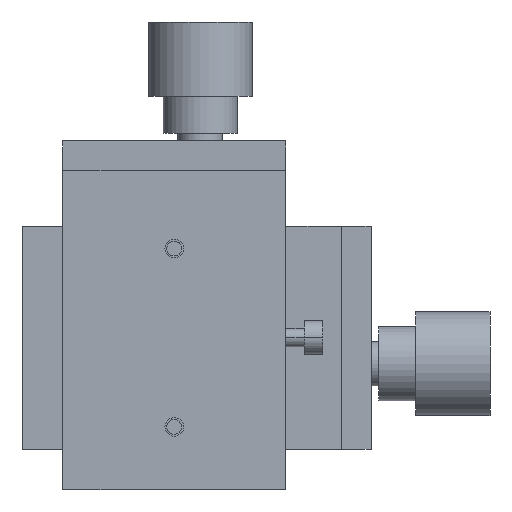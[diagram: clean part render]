
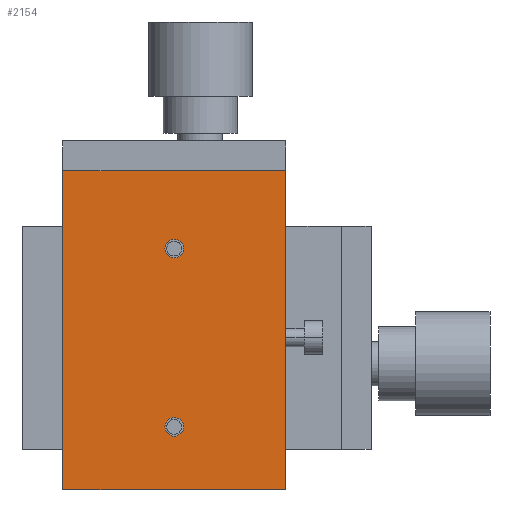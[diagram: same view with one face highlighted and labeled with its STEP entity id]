
A CAD part, front view. The second image highlights one B-rep face of the part: STEP entity #2154.
In plain terms, the highlighted planar face has unit normal (0, -1, 0).
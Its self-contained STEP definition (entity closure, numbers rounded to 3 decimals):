
#1580 = EDGE_CURVE ( 'NONE', #1581, #1582, #5547, .T. ) ;
#1581 = VERTEX_POINT ( 'NONE', #5542 ) ;
#1582 = VERTEX_POINT ( 'NONE', #5541 ) ;
#1642 = EDGE_CURVE ( 'NONE', #1643, #1644, #5634, .T. ) ;
#1643 = VERTEX_POINT ( 'NONE', #5630 ) ;
#1644 = VERTEX_POINT ( 'NONE', #5629 ) ;
#2008 = EDGE_CURVE ( 'NONE', #1582, #1581, #6276, .T. ) ;
#2014 = EDGE_CURVE ( 'NONE', #2015, #2016, #6265, .T. ) ;
#2015 = VERTEX_POINT ( 'NONE', #6325 ) ;
#2016 = VERTEX_POINT ( 'NONE', #6324 ) ;
#2027 = EDGE_CURVE ( 'NONE', #1644, #1643, #6308, .T. ) ;
#2136 = ORIENTED_EDGE ( 'NONE', *, *, #2137, .F. ) ;
#2137 = EDGE_CURVE ( 'NONE', #2016, #2161, #6471, .T. ) ;
#2138 = ORIENTED_EDGE ( 'NONE', *, *, #2014, .F. ) ;
#2139 = ORIENTED_EDGE ( 'NONE', *, *, #2153, .T. ) ;
#2140 = EDGE_LOOP ( 'NONE', ( #2141, #2142 ) ) ;
#2141 = ORIENTED_EDGE ( 'NONE', *, *, #2027, .T. ) ;
#2142 = ORIENTED_EDGE ( 'NONE', *, *, #1642, .T. ) ;
#2151 = VERTEX_POINT ( 'NONE', #6524 ) ;
#2153 = EDGE_CURVE ( 'NONE', #2015, #2151, #6523, .T. ) ;
#2154 = ADVANCED_FACE ( 'NONE', ( #6519, #6518, #6517 ), #6516, .T. ) ;
#2155 = EDGE_LOOP ( 'NONE', ( #2156, #2157 ) ) ;
#2156 = ORIENTED_EDGE ( 'NONE', *, *, #2008, .T. ) ;
#2157 = ORIENTED_EDGE ( 'NONE', *, *, #1580, .T. ) ;
#2158 = EDGE_LOOP ( 'NONE', ( #2159, #2136, #2138, #2139 ) ) ;
#2159 = ORIENTED_EDGE ( 'NONE', *, *, #2160, .T. ) ;
#2160 = EDGE_CURVE ( 'NONE', #2151, #2161, #6511, .T. ) ;
#2161 = VERTEX_POINT ( 'NONE', #6507 ) ;
#5541 = CARTESIAN_POINT ( 'NONE',  ( -1.25, 0., 12. ) ) ;
#5542 = CARTESIAN_POINT ( 'NONE',  ( 1.25, 0., 12. ) ) ;
#5543 = DIRECTION ( 'NONE',  ( -1., 0., 0. ) ) ;
#5544 = DIRECTION ( 'NONE',  ( 0., 1., 0. ) ) ;
#5545 = CARTESIAN_POINT ( 'NONE',  ( 0., 0., 12. ) ) ;
#5546 = AXIS2_PLACEMENT_3D ( 'NONE', #5545, #5544, #5543 ) ;
#5547 = CIRCLE ( 'NONE', #5546, 1.25 ) ;
#5629 = CARTESIAN_POINT ( 'NONE',  ( -1.25, 0., -12. ) ) ;
#5630 = CARTESIAN_POINT ( 'NONE',  ( 1.25, 0., -12. ) ) ;
#5631 = DIRECTION ( 'NONE',  ( -1., 0., 0. ) ) ;
#5632 = DIRECTION ( 'NONE',  ( 0., 1., 0. ) ) ;
#5633 = AXIS2_PLACEMENT_3D ( 'NONE', #5640, #5632, #5631 ) ;
#5634 = CIRCLE ( 'NONE', #5633, 1.25 ) ;
#5640 = CARTESIAN_POINT ( 'NONE',  ( 0., 0., -12. ) ) ;
#6265 = LINE ( 'NONE', #6328, #6327 ) ;
#6272 = DIRECTION ( 'NONE',  ( -1., 0., 0. ) ) ;
#6273 = DIRECTION ( 'NONE',  ( 0., 1., 0. ) ) ;
#6274 = CARTESIAN_POINT ( 'NONE',  ( 0., 0., 12. ) ) ;
#6275 = AXIS2_PLACEMENT_3D ( 'NONE', #6274, #6273, #6272 ) ;
#6276 = CIRCLE ( 'NONE', #6275, 1.25 ) ;
#6305 = DIRECTION ( 'NONE',  ( -1., 0., 0. ) ) ;
#6306 = DIRECTION ( 'NONE',  ( 0., 1., 0. ) ) ;
#6307 = AXIS2_PLACEMENT_3D ( 'NONE', #6314, #6306, #6305 ) ;
#6308 = CIRCLE ( 'NONE', #6307, 1.25 ) ;
#6314 = CARTESIAN_POINT ( 'NONE',  ( 0., 0., -12. ) ) ;
#6324 = CARTESIAN_POINT ( 'NONE',  ( -15., 0., 22.5 ) ) ;
#6325 = CARTESIAN_POINT ( 'NONE',  ( -15., 0., -20.5 ) ) ;
#6326 = DIRECTION ( 'NONE',  ( 0., 0., 1. ) ) ;
#6327 = VECTOR ( 'NONE', #6326, 1000. ) ;
#6328 = CARTESIAN_POINT ( 'NONE',  ( -15., 0., -20.5 ) ) ;
#6468 = DIRECTION ( 'NONE',  ( 1., 0., 0. ) ) ;
#6469 = VECTOR ( 'NONE', #6468, 1000. ) ;
#6470 = CARTESIAN_POINT ( 'NONE',  ( -15., 0., 22.5 ) ) ;
#6471 = LINE ( 'NONE', #6470, #6469 ) ;
#6507 = CARTESIAN_POINT ( 'NONE',  ( 15., 0., 22.5 ) ) ;
#6508 = DIRECTION ( 'NONE',  ( 0., 0., 1. ) ) ;
#6509 = VECTOR ( 'NONE', #6508, 1000. ) ;
#6510 = CARTESIAN_POINT ( 'NONE',  ( 15., 0., -20.5 ) ) ;
#6511 = LINE ( 'NONE', #6510, #6509 ) ;
#6512 = DIRECTION ( 'NONE',  ( 1., 0., 0. ) ) ;
#6513 = DIRECTION ( 'NONE',  ( 0., -1., 0. ) ) ;
#6514 = CARTESIAN_POINT ( 'NONE',  ( -15., 0., -20.5 ) ) ;
#6515 = AXIS2_PLACEMENT_3D ( 'NONE', #6514, #6513, #6512 ) ;
#6516 = PLANE ( 'NONE',  #6515 ) ;
#6517 = FACE_BOUND ( 'NONE', #2140, .T. ) ;
#6518 = FACE_OUTER_BOUND ( 'NONE', #2158, .T. ) ;
#6519 = FACE_BOUND ( 'NONE', #2155, .T. ) ;
#6520 = DIRECTION ( 'NONE',  ( 1., 0., 0. ) ) ;
#6521 = VECTOR ( 'NONE', #6520, 1000. ) ;
#6522 = CARTESIAN_POINT ( 'NONE',  ( -15., 0., -20.5 ) ) ;
#6523 = LINE ( 'NONE', #6522, #6521 ) ;
#6524 = CARTESIAN_POINT ( 'NONE',  ( 15., 0., -20.5 ) ) ;
